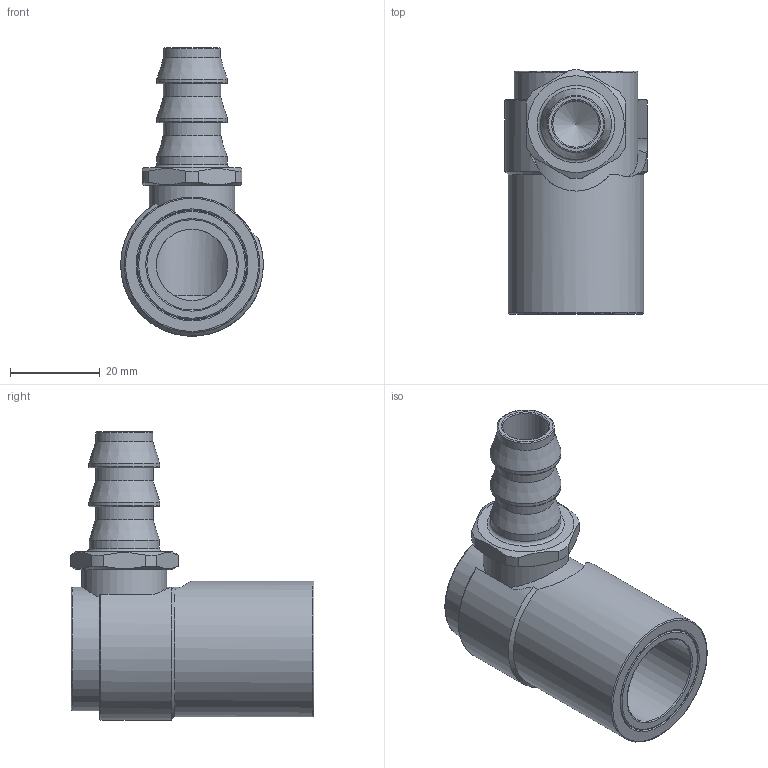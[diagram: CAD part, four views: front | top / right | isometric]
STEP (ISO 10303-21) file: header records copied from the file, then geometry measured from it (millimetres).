
FILE_DESCRIPTION(/* description */ (''),/* implementation_level */ '2;1');
FILE_NAME(/* name */ 'C:/Users/drich/Desktop/SJ-504 v1.step',/* time_stamp */ '2019-12-29T15:45:02-06:00',/* author */ (''),/* organization */ (''),/* preprocessor_version */ 'ST-DEVELOPER v18',/* originating_system */ 'Autodesk Translation Framework v8.12.0.6',/* authorisation */ '');
FILE_SCHEMA (('AUTOMOTIVE_DESIGN { 1 0 10303 214 3 1 1 }'));
Length unit declared in the file: inch
Products named in the file (5): SJ-504; 500 series body; 500 series sleeve; 500 series sleeve_1; SJ-504 BARB
Assembly tree (4 placements, depth 3):
  SJ-504
    500 series body
    500 series sleeve
      500 series sleeve_1
    SJ-504 BARB
Bounding box: 31.72 x 54.24 x 64.1 mm (x, y, z)
Volume: 26543.8 mm3; surface area: 20472.5 mm2
Topology: 3 solids, 3 shells, 78 faces, 219 edges, 152 vertices
Faces by surface type: cylinder 30, plane 24, torus 15, cone 9
Full cylindrical faces by diameter (mm): 10.312 x1, 12.7 x1, 12.78 x2, 15.647 x1, 15.743 x2, 15.85 x1, 18.174 x1, 18.969 x1, 19.05 x1, 20.066 x1, 21.336 x1, 24.232 x1, 24.384 x1, 27.483 x1, 27.559 x1, 30.124 x1
Entity records: 2945 total; most frequent: CARTESIAN_POINT 716, DIRECTION 481, ORIENTED_EDGE 436, EDGE_CURVE 218, AXIS2_PLACEMENT_3D 215, VERTEX_POINT 152, CIRCLE 126, EDGE_LOOP 90
